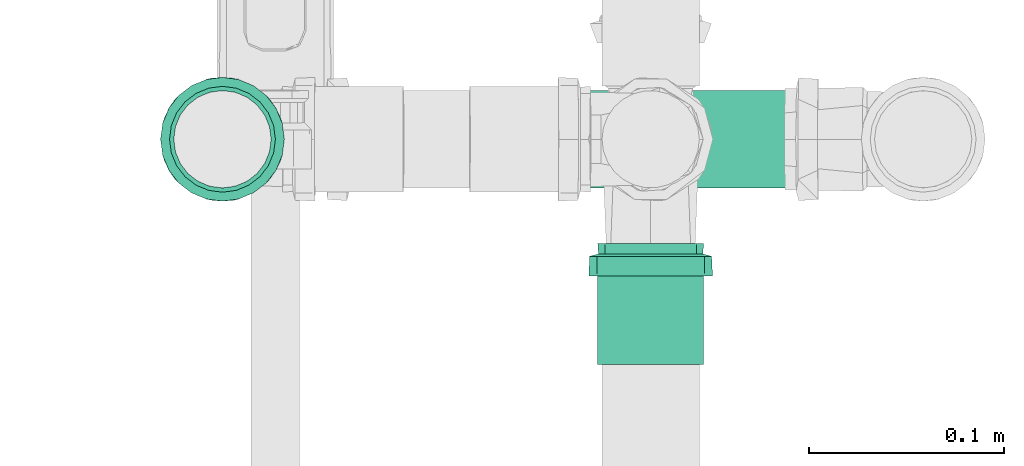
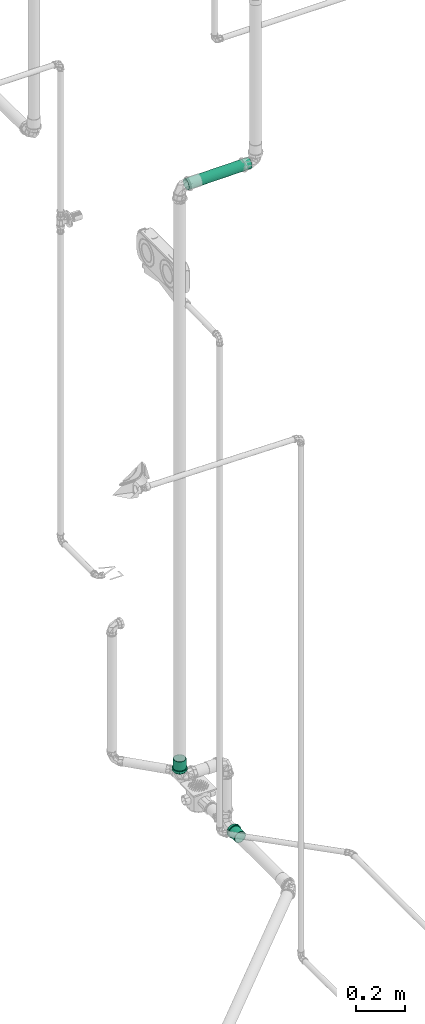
# One storey, part 168 of 589: 2 flow fittings, 1 flow segment.
"""IFC2X3 building model written with IfcOpenShell, lengths in millimetres."""

from ifc_helpers import new_model, entity, si_unit, converted_unit, derived_unit, direction, frame, frame_2d, origin, place, context, subcontext, project, spatial, circle, extrude, faceted_brep, source, transform, mapped, material, type_object, type_shapes, element, save


model = new_model("IFC2X3")

# Units and contexts
model_context = context("Model", 3, precision=0.01, world=origin(), true_north=direction((6.123031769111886e-17, 1.0)))
body_context = subcontext(model_context, "Body", "Model", "MODEL_VIEW")
ifc_project = project(units=[si_unit("LENGTHUNIT", "METRE", prefix="MILLI"), si_unit("AREAUNIT", "SQUARE_METRE"), si_unit("VOLUMEUNIT", "CUBIC_METRE"), converted_unit("PLANEANGLEUNIT", "DEGREE", entity("IfcRatioMeasure", 0.017453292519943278), si_unit("PLANEANGLEUNIT", "RADIAN"), dimensions=[0, 0, 0, 0, 0, 0, 0]), si_unit("MASSUNIT", "GRAM", prefix="KILO"), derived_unit("MASSDENSITYUNIT", [(si_unit("MASSUNIT", "GRAM", prefix="KILO"), 1), (si_unit("LENGTHUNIT", "METRE"), -3)]), derived_unit("IONCONCENTRATIONUNIT", [(si_unit("MASSUNIT", "GRAM", prefix="KILO"), 1), (si_unit("LENGTHUNIT", "METRE"), -3)]), derived_unit("MOMENTOFINERTIAUNIT", [(si_unit("LENGTHUNIT", "METRE"), 4)]), si_unit("TIMEUNIT", "SECOND"), si_unit("FREQUENCYUNIT", "HERTZ"), si_unit("THERMODYNAMICTEMPERATUREUNIT", "DEGREE_CELSIUS"), derived_unit("THERMALTRANSMITTANCEUNIT", [(si_unit("MASSUNIT", "GRAM", prefix="KILO"), 1), (si_unit("THERMODYNAMICTEMPERATUREUNIT", "KELVIN"), -1), (si_unit("TIMEUNIT", "SECOND"), -3)]), derived_unit("THERMALCONDUCTANCEUNIT", [(si_unit("MASSUNIT", "GRAM", prefix="KILO"), 1), (si_unit("THERMODYNAMICTEMPERATUREUNIT", "KELVIN"), -1), (si_unit("TIMEUNIT", "SECOND"), -3), (si_unit("LENGTHUNIT", "METRE"), 1)]), derived_unit("VOLUMETRICFLOWRATEUNIT", [(si_unit("LENGTHUNIT", "METRE"), 3), (si_unit("TIMEUNIT", "SECOND"), -1)]), derived_unit("MASSFLOWRATEUNIT", [(si_unit("MASSUNIT", "GRAM", prefix="KILO"), 1), (si_unit("TIMEUNIT", "SECOND"), -1)]), derived_unit("ROTATIONALFREQUENCYUNIT", [(si_unit("TIMEUNIT", "SECOND"), -1)]), si_unit("ELECTRICCURRENTUNIT", "AMPERE"), si_unit("ELECTRICVOLTAGEUNIT", "VOLT"), si_unit("POWERUNIT", "WATT"), si_unit("FORCEUNIT", "NEWTON", prefix="KILO"), si_unit("ILLUMINANCEUNIT", "LUX"), si_unit("LUMINOUSFLUXUNIT", "LUMEN"), si_unit("LUMINOUSINTENSITYUNIT", "CANDELA"), derived_unit("USERDEFINED", [(si_unit("MASSUNIT", "GRAM", prefix="KILO"), -1), (si_unit("LENGTHUNIT", "METRE"), -2), (si_unit("TIMEUNIT", "SECOND"), 3), (si_unit("LUMINOUSFLUXUNIT", "LUMEN"), 1)]), derived_unit("USERDEFINED", [(si_unit("MASSUNIT", "GRAM", prefix="KILO"), 1), (si_unit("TIMEUNIT", "SECOND"), -3), (si_unit("LENGTHUNIT", "METRE"), 3), (si_unit("ELECTRICCURRENTUNIT", "AMPERE"), -2)]), derived_unit("SOUNDPOWERUNIT", [(si_unit("MASSUNIT", "GRAM", prefix="KILO"), 1), (si_unit("TIMEUNIT", "SECOND"), -3), (si_unit("LENGTHUNIT", "METRE"), 2)]), derived_unit("SOUNDPRESSUREUNIT", [(si_unit("MASSUNIT", "GRAM", prefix="KILO"), 1), (si_unit("LENGTHUNIT", "METRE"), -1), (si_unit("TIMEUNIT", "SECOND"), -2)]), derived_unit("LINEARVELOCITYUNIT", [(si_unit("LENGTHUNIT", "METRE"), 1), (si_unit("TIMEUNIT", "SECOND"), -1)]), si_unit("PRESSUREUNIT", "PASCAL"), derived_unit("USERDEFINED", [(si_unit("MASSUNIT", "GRAM", prefix="KILO"), 1), (si_unit("LENGTHUNIT", "METRE"), -2), (si_unit("TIMEUNIT", "SECOND"), -2)]), derived_unit("LINEARFORCEUNIT", [(si_unit("MASSUNIT", "GRAM", prefix="KILO"), 1), (si_unit("TIMEUNIT", "SECOND"), -2)]), derived_unit("PLANARFORCEUNIT", [(si_unit("MASSUNIT", "GRAM", prefix="KILO"), 1), (si_unit("LENGTHUNIT", "METRE"), -1), (si_unit("TIMEUNIT", "SECOND"), -2)]), derived_unit("SPECIFICHEATCAPACITYUNIT", [(si_unit("THERMODYNAMICTEMPERATUREUNIT", "KELVIN"), -1), (si_unit("LENGTHUNIT", "METRE"), 2), (si_unit("TIMEUNIT", "SECOND"), -2)]), derived_unit("HEATINGVALUEUNIT", [(si_unit("LENGTHUNIT", "METRE"), 2), (si_unit("TIMEUNIT", "SECOND"), -2)]), derived_unit("VAPORPERMEABILITYUNIT", [(si_unit("LENGTHUNIT", "METRE"), -1), (si_unit("TIMEUNIT", "SECOND"), 1)]), derived_unit("DYNAMICVISCOSITYUNIT", [(si_unit("MASSUNIT", "GRAM", prefix="KILO"), 1), (si_unit("TIMEUNIT", "SECOND"), -1), (si_unit("LENGTHUNIT", "METRE"), -1)]), derived_unit("THERMALEXPANSIONCOEFFICIENTUNIT", [(si_unit("THERMODYNAMICTEMPERATUREUNIT", "KELVIN"), -1)]), derived_unit("MODULUSOFELASTICITYUNIT", [(si_unit("MASSUNIT", "GRAM", prefix="KILO"), 1), (si_unit("LENGTHUNIT", "METRE"), -1), (si_unit("TIMEUNIT", "SECOND"), -2)]), derived_unit("ISOTHERMALMOISTURECAPACITYUNIT", [(si_unit("LENGTHUNIT", "METRE"), 3), (si_unit("MASSUNIT", "GRAM", prefix="KILO"), -1)]), derived_unit("MOISTUREDIFFUSIVITYUNIT", [(si_unit("TIMEUNIT", "SECOND"), -1), (si_unit("LENGTHUNIT", "METRE"), 2)])], contexts=[model_context])

# Site, building, storey
site_placement = place(None, origin())
site = spatial("IfcSite", under=ifc_project, at=site_placement, Name="Default", CompositionType="ELEMENT")
building_placement = place(site_placement, origin())
building = spatial("IfcBuilding", under=site, at=building_placement, CompositionType="ELEMENT")
storey_placement = place(building_placement, frame((0.0, 0.0, 100.0)))
storey = spatial("IfcBuildingStorey", under=building, at=storey_placement, Name="TÉRREO", CompositionType="ELEMENT", Elevation=100.0)

# Flow segment
pipe_segment_type = type_object("IfcPipeSegmentType", Name="Tipos de tubos:PVC Esgoto Série Normal", PredefinedType="NOTDEFINED")
flow_segment_placement = place(storey_placement, origin())
element("IfcFlowSegment", 1, at=flow_segment_placement, inside=storey, type_object=pipe_segment_type, Name="Tipos de tubos:PVC Esgoto Série Normal", ObjectType="Tipos de tubos:PVC Esgoto Série Normal", context=body_context, shape_type="SweptSolid", body=[
    extrude(circle(Radius=25.0, at=frame_2d((-1.0828671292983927e-12, 5.414064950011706e-13), x_axis=(1.0, 0.0))), frame((11855.917911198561, -6666.695187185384, 3042.5093975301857), z_axis=(0.9999500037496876, 0.0, 0.009999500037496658), x_axis=(0.0, -1.0, 0.0)), (0.0, 0.0, 1.0), 298.1353996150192),
])

# Flow fittings
ifc_material = material(Name="PVC Série Normal")
pipe_fitting_type = type_object("IfcPipeFittingType", Name="PVC Esgoto_Luva Simples para Conexão_Rodrigo MEP:Standard", PredefinedType="NOTDEFINED", material=ifc_material)
shared_shape = source(origin(), body_context, "Body", "Brep", [
    faceted_brep([(16.599999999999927, 15.900000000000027, -27.53960784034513), (16.599999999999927, 22.485995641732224, -22.485995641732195), (16.599999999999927, 13.599999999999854, -23.555890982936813), (16.599999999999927, 7.039878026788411, -26.273182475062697), (16.599999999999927, 8.2304456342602, -30.71644127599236), (16.599999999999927, 19.233304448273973, -19.233304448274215), (16.599999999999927, 27.539607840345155, -15.899999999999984), (16.599999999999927, 23.55589098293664, -13.600000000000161), (16.599999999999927, 26.273182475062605, -7.03987802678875), (16.599999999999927, 30.716441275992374, -8.230445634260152), (16.599999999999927, 27.2, 0.0), (16.599999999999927, 31.8, 0.0), (16.599999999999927, 26.273182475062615, 7.0398780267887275), (16.599999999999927, 30.71644127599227, 8.23044563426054), (16.599999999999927, 23.555890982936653, 13.60000000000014), (16.599999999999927, 27.539607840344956, 15.900000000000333), (16.599999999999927, 19.233304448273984, 19.2333044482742), (16.599999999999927, 22.485995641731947, 22.48599564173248), (16.599999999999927, 13.599999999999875, 23.555890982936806), (16.599999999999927, 15.899999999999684, 27.53960784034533), (16.599999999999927, 7.039878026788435, 26.27318247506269), (16.599999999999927, 8.230445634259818, 30.716441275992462), (16.599999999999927, 0.0, 27.2), (16.599999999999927, 0.0, 31.8), (16.599999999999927, -7.039878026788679, 26.273182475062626), (16.599999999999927, -8.230445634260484, 30.716441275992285), (16.599999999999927, -13.600000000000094, 23.555890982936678), (16.599999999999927, -15.900000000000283, 27.53960784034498), (16.599999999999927, -19.23330444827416, 19.233304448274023), (16.599999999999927, -22.485995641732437, 22.48599564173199), (16.599999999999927, -23.55589098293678, 13.59999999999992), (16.599999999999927, -27.539607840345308, 15.899999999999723), (16.599999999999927, -30.71644127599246, 8.230445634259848), (16.599999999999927, -26.273182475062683, 7.039878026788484), (16.599999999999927, -31.8, 0.0), (16.599999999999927, -27.2, 0.0), (16.599999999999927, -30.71644127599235, -8.23044563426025), (16.599999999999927, -26.273182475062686, -7.03987802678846), (16.599999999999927, -27.53960784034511, -15.90000000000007), (16.599999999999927, -23.55589098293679, -13.599999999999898), (16.599999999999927, -22.485995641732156, -22.485995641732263), (16.599999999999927, -19.233304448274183, -19.233304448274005), (16.599999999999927, -15.899999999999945, -27.53960784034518), (16.599999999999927, -13.600000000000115, -23.555890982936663), (16.599999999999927, -8.230445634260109, -30.716441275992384), (16.599999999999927, -7.039878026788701, -26.273182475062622), (16.599999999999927, 0.0, -31.8), (16.599999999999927, 0.0, -27.2), (6.500000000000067, -10.708108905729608, 29.429219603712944), (6.500000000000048, -24.359073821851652, 20.44200387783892), (6.500000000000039, -27.120498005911, 15.6595386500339), (6.50000000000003, -29.881922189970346, 10.877073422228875), (6.500000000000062, -15.89769721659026, 27.540937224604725), (6.500000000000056, -20.128385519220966, 23.991470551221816), (6.50000000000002, -30.840961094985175, 5.438536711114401), (6.5000000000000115, -31.8, 0.0), (6.50000000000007, -5.518520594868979, 31.317501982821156), (6.500000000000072, 5.526376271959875, 31.316116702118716), (6.50000000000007, 0.00392783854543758, 31.316809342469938), (6.500000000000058, 20.134403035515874, 23.986420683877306), (6.500000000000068, 10.715490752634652, 29.42653259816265), (6.500000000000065, 15.904605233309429, 27.536948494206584), (6.500000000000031, 29.8846497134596, 10.869577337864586), (6.500000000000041, 27.12442527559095, 15.652735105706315), (6.5000000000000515, 24.364200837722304, 20.435892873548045), (6.5000000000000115, 31.8, 0.0), (6.499999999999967, 24.364200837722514, -20.435892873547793), (6.499999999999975, 27.12442527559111, -15.652735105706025), (6.499999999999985, 29.884649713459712, -10.869577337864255), (6.4999999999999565, 15.904605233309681, -27.53694849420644), (6.499999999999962, 20.134403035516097, -23.986420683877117), (6.499999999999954, 10.715490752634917, -29.42653259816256), (6.499999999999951, 5.526376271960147, -31.31611670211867), (6.499999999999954, -5.518520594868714, -31.317501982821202), (6.499999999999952, 0.003927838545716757, -31.316809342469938), (6.499999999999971, -20.128385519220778, -23.99147055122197), (6.499999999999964, -15.897697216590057, -27.54093722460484), (6.499999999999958, -10.70810890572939, -29.42921960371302), (6.499999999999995, -29.881922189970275, -10.877073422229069), (6.499999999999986, -27.12049800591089, -15.659538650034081), (6.499999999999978, -24.359073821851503, -20.442003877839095), (6.500000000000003, -30.840961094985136, -5.438536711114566), (6.499999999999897, -30.696173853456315, -6.259599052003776), (62.0, 13.600000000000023, -23.55589098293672), (62.0, 19.233304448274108, -19.23330444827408), (62.0, 12.499999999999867, -21.650635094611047), (62.0, 6.470476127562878, -24.14814565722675), (62.0, 7.039878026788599, -26.273182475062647), (62.0, 17.677669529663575, -17.677669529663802), (62.0, 23.55589098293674, -13.599999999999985), (62.0, 21.65063509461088, -12.50000000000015), (62.0, 24.148145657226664, -6.470476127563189), (62.0, 26.27318247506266, -7.039878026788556), (62.0, 25.0, 0.0), (62.0, 27.2, 0.0), (62.0, 24.148145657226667, 6.4704761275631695), (62.0, 26.273182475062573, 7.03987802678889), (62.0, 21.650635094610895, 12.500000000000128), (62.0, 23.555890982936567, 13.600000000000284), (62.0, 17.67766952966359, 17.67766952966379), (62.0, 19.233304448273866, 19.233304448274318), (62.0, 12.499999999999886, 21.650635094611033), (62.0, 13.59999999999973, 23.55589098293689), (62.0, 6.4704761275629, 24.14814565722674), (62.0, 7.039878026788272, 26.273182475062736), (62.0, 0.0, 25.0), (62.0, 0.0, 27.2), (62.0, -6.470476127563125, 24.148145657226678), (62.0, -7.039878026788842, 26.273182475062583), (62.0, -12.500000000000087, 21.650635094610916), (62.0, -13.600000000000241, 23.555890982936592), (62.0, -17.677669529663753, 17.677669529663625), (62.0, -19.233304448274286, 19.2333044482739), (62.0, -21.65063509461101, 12.499999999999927), (62.0, -23.555890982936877, 13.599999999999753), (62.0, -26.27318247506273, 7.039878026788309), (62.0, -24.14814565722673, 6.470476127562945), (62.0, -27.2, 0.0), (62.0, -25.0, 0.0), (62.0, -26.27318247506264, -7.0398780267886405), (62.0, -24.148145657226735, -6.470476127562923), (62.0, -23.5558909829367, -13.600000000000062), (62.0, -21.650635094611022, -12.499999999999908), (62.0, -19.233304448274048, -19.233304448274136), (62.0, -17.67766952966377, -17.677669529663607), (62.0, -13.599999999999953, -23.555890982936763), (62.0, -12.500000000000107, -21.650635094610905), (62.0, -7.039878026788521, -26.27318247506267), (62.0, -6.470476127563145, -24.148145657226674), (62.0, 0.0, -27.2), (62.0, 0.0, -25.0), (0.0, 12.499999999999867, -21.650635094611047), (0.0, 19.233304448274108, -19.23330444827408), (0.0, 13.600000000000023, -23.55589098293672), (0.0, 6.470476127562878, -24.14814565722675), (0.0, 17.677669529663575, -17.677669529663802), (0.0, 23.55589098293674, -13.599999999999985), (0.0, 21.65063509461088, -12.50000000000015), (0.0, 24.148145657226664, -6.470476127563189), (0.0, 26.27318247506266, -7.039878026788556), (0.0, 25.0, 0.0), (0.0, 27.2, 0.0), (0.0, 24.148145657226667, 6.4704761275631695), (0.0, 26.273182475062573, 7.03987802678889), (0.0, 21.650635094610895, 12.500000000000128), (0.0, 23.555890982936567, 13.600000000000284), (0.0, 17.67766952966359, 17.67766952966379), (0.0, 19.233304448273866, 19.233304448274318), (0.0, 12.499999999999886, 21.650635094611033), (0.0, 13.59999999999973, 23.55589098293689), (0.0, 6.4704761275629, 24.14814565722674), (0.0, 7.039878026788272, 26.273182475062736), (0.0, 0.0, 25.0), (0.0, 0.0, 27.2), (0.0, -6.470476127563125, 24.148145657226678), (0.0, -7.039878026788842, 26.273182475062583), (0.0, -12.500000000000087, 21.650635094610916), (0.0, -13.600000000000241, 23.555890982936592), (0.0, -17.677669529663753, 17.677669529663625), (0.0, -19.233304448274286, 19.2333044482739), (0.0, -21.65063509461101, 12.499999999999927), (0.0, -23.555890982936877, 13.599999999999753), (0.0, -26.27318247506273, 7.039878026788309), (0.0, -24.14814565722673, 6.470476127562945), (0.0, -27.2, 0.0), (0.0, -25.0, 0.0), (0.0, -26.27318247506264, -7.0398780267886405), (0.0, -24.148145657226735, -6.470476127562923), (0.0, -23.5558909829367, -13.600000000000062), (0.0, -21.650635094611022, -12.499999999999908), (0.0, -19.233304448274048, -19.233304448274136), (0.0, -17.67766952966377, -17.677669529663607), (0.0, -13.599999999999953, -23.555890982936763), (0.0, -12.500000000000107, -21.650635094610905), (0.0, -7.039878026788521, -26.27318247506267), (0.0, -6.470476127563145, -24.148145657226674), (0.0, 0.0, -27.2), (0.0, 0.0, -25.0), (0.0, 7.039878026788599, -26.273182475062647), (5.300000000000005, -26.37968999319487, 4.651830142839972), (5.299999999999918, -26.25584678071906, 5.354122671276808), (5.300000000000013, -25.559379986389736, 9.303660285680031), (5.300000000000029, -20.835434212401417, 17.48498444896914), (5.300000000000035, -17.216732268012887, 20.521006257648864), (5.300000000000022, -23.19740709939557, 13.394322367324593), (5.3000000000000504, -4.720244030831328, 26.787297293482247), (5.300000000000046, -9.15913717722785, 25.172162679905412), (5.299999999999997, -27.2, 0.0), (5.300000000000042, -13.598030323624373, 23.557028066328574), (5.300000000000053, 9.165451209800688, 25.169864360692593), (5.300000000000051, 13.603939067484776, 23.55361632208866), (5.300000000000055, 4.7269633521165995, 26.786112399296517), (5.300000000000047, 17.221879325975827, 20.516686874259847), (5.300000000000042, 20.839819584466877, 17.479757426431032), (5.3000000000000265, 25.56171296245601, 9.297248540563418), (5.299999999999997, 27.2, 0.0), (5.3000000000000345, 23.20076627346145, 13.388502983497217), (5.300000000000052, 0.003359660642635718, 26.786704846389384), (5.299999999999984, 25.56171296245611, -9.29724854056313), (5.299999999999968, 20.839819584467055, -17.47975742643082), (5.2999999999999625, 17.22187932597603, -20.516686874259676), (5.299999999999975, 23.200766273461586, -13.388502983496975), (5.299999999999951, 4.726963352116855, -26.78611239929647), (5.2999999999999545, 9.165451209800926, -25.169864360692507), (5.299999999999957, 13.603939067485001, -23.553616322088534), (5.29999999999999, -26.379689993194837, -4.651830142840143), (5.299999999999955, -9.159137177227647, -25.17216267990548), (5.299999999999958, -13.5980303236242, -23.55702806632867), (5.299999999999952, -4.720244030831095, -26.787297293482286), (5.299999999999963, -17.216732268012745, -20.52100625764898), (5.299999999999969, -20.83543421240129, -17.484984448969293), (5.299999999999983, -25.559379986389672, -9.303660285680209), (5.299999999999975, -23.197407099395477, -13.394322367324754), (5.299999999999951, 0.003359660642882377, -26.78670484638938), (39.0, -25.0, 0.0), (39.0, 25.0, 0.0)], [[[0, 1, 2]], [[0, 2, 3]], [[3, 4, 0]], [[2, 1, 5]], [[6, 5, 1]], [[7, 5, 6]], [[8, 7, 6]], [[8, 6, 9]], [[8, 9, 10]], [[10, 9, 11]], [[12, 10, 11]], [[12, 11, 13]], [[14, 12, 13]], [[14, 13, 15]], [[16, 14, 15]], [[15, 17, 16]], [[17, 18, 16]], [[17, 19, 18]], [[18, 19, 20]], [[21, 20, 19]], [[20, 21, 22]], [[22, 21, 23]], [[22, 23, 24]], [[24, 23, 25]], [[24, 25, 26]], [[27, 26, 25]], [[27, 28, 26]], [[28, 27, 29]], [[30, 28, 29]], [[31, 30, 29]], [[32, 30, 31]], [[33, 30, 32]], [[33, 32, 34]], [[35, 33, 34]], [[36, 35, 34]], [[36, 37, 35]], [[37, 36, 38]], [[39, 37, 38]], [[39, 38, 40]], [[39, 40, 41]], [[40, 42, 41]], [[41, 42, 43]], [[43, 42, 44]], [[44, 45, 43]], [[46, 45, 44]], [[4, 47, 46]], [[46, 47, 45]], [[4, 3, 47]], [[48, 27, 25]], [[31, 29, 49]], [[31, 49, 50, 51]], [[52, 53, 27]], [[32, 51, 54]], [[54, 55, 34]], [[54, 34, 32]], [[25, 56, 48]], [[49, 29, 53]], [[23, 57, 58, 56]], [[59, 19, 17]], [[27, 53, 29]], [[48, 52, 27]], [[31, 51, 32]], [[57, 23, 21]], [[60, 19, 61]], [[15, 62, 63, 64]], [[19, 60, 21]], [[15, 13, 62]], [[17, 64, 59]], [[57, 21, 60]], [[23, 56, 25]], [[15, 64, 17]], [[13, 65, 62]], [[13, 11, 65]], [[59, 61, 19]], [[65, 11, 9]], [[6, 1, 66]], [[6, 66, 67, 68]], [[69, 70, 0]], [[68, 65, 9]], [[71, 69, 0]], [[71, 0, 4]], [[4, 72, 71]], [[66, 1, 70]], [[46, 73, 74, 72]], [[75, 76, 42]], [[0, 70, 1]], [[75, 42, 40]], [[6, 68, 9]], [[73, 46, 44]], [[77, 42, 76]], [[38, 78, 79, 80]], [[42, 77, 44]], [[38, 36, 78]], [[40, 80, 75]], [[73, 44, 77]], [[46, 72, 4]], [[38, 80, 40]], [[36, 81, 82, 78]], [[55, 81, 34]], [[34, 81, 36]], [[83, 84, 85]], [[83, 85, 86]], [[86, 87, 83]], [[85, 84, 88]], [[89, 88, 84]], [[88, 89, 90]], [[90, 89, 91]], [[92, 91, 89]], [[92, 93, 91]], [[93, 92, 94]], [[95, 93, 94]], [[94, 96, 95]], [[95, 96, 97]], [[98, 97, 96]], [[97, 98, 99]], [[99, 98, 100]], [[101, 99, 100]], [[100, 102, 101]], [[101, 102, 103]], [[104, 103, 102]], [[103, 104, 105]], [[105, 104, 106]], [[105, 106, 107]], [[107, 106, 108]], [[107, 108, 109]], [[110, 109, 108]], [[110, 111, 109]], [[111, 110, 112]], [[112, 113, 111]], [[114, 113, 112]], [[113, 114, 115]], [[115, 116, 113]], [[117, 116, 115]], [[117, 118, 116]], [[119, 118, 117]], [[119, 120, 118]], [[120, 119, 121]], [[121, 122, 120]], [[122, 121, 123]], [[122, 123, 124]], [[123, 125, 124]], [[124, 125, 126]], [[126, 125, 127]], [[127, 128, 126]], [[129, 128, 127]], [[87, 130, 129]], [[129, 130, 128]], [[87, 86, 130]], [[131, 132, 133]], [[134, 131, 133]], [[135, 132, 131]], [[132, 135, 136]], [[137, 136, 135]], [[138, 136, 137]], [[136, 138, 139]], [[138, 140, 139]], [[141, 139, 140]], [[141, 140, 142]], [[142, 143, 141]], [[144, 143, 142]], [[143, 144, 145]], [[146, 145, 144]], [[147, 145, 146]], [[147, 146, 148]], [[148, 149, 147]], [[150, 149, 148]], [[149, 150, 151]], [[152, 151, 150]], [[153, 151, 152]], [[154, 153, 152]], [[155, 153, 154]], [[156, 155, 154]], [[155, 156, 157]], [[156, 158, 157]], [[159, 157, 158]], [[158, 160, 159]], [[159, 160, 161]], [[162, 161, 160]], [[160, 163, 162]], [[162, 163, 164]], [[163, 165, 164]], [[164, 165, 166]], [[165, 167, 166]], [[168, 166, 167]], [[167, 169, 168]], [[170, 168, 169]], [[171, 170, 169]], [[171, 172, 170]], [[173, 172, 171]], [[174, 172, 173]], [[173, 175, 174]], [[174, 175, 176]], [[175, 177, 176]], [[177, 134, 178]], [[176, 177, 178]], [[133, 178, 134]], [[162, 179, 180, 181]], [[159, 182, 183]], [[182, 161, 181, 184]], [[185, 155, 186]], [[161, 162, 181]], [[187, 179, 164]], [[183, 188, 157]], [[183, 157, 159]], [[161, 182, 159]], [[189, 190, 149]], [[189, 149, 151]], [[157, 188, 186]], [[157, 186, 155]], [[153, 155, 185]], [[164, 179, 162]], [[151, 191, 189]], [[147, 192, 193]], [[143, 194, 195]], [[194, 145, 193, 196]], [[143, 195, 141]], [[10, 12, 96, 94]], [[149, 192, 147]], [[153, 185, 197, 191]], [[153, 191, 151]], [[145, 147, 193]], [[190, 192, 149]], [[145, 194, 143]], [[139, 195, 198]], [[132, 199, 200]], [[199, 136, 198, 201]], [[202, 178, 203]], [[136, 139, 198]], [[139, 141, 195]], [[92, 8, 10, 94]], [[133, 203, 178]], [[200, 204, 133]], [[136, 199, 132]], [[205, 164, 166]], [[206, 207, 172]], [[133, 204, 203]], [[206, 172, 174]], [[176, 178, 202]], [[200, 133, 132]], [[174, 208, 206]], [[170, 209, 210]], [[166, 211, 205]], [[211, 168, 210, 212]], [[168, 211, 166]], [[172, 209, 170]], [[176, 202, 213, 208]], [[176, 208, 174]], [[168, 170, 210]], [[207, 209, 172]], [[205, 187, 164]], [[116, 118, 214, 165, 163]], [[156, 109, 111, 158]], [[111, 113, 160, 158]], [[113, 116, 163, 160]], [[107, 109, 156, 154]], [[154, 152, 105, 107]], [[103, 105, 152, 150]], [[103, 150, 148, 101]], [[142, 95, 97, 144]], [[97, 99, 146, 144]], [[99, 101, 148, 146]], [[93, 95, 142, 140, 215]], [[215, 140, 138, 91, 93]], [[135, 131, 85, 88]], [[90, 91, 138, 137]], [[90, 137, 135, 88]], [[86, 85, 131, 134]], [[134, 177, 130, 86]], [[128, 130, 177, 175]], [[128, 175, 173, 126]], [[167, 120, 122, 169]], [[122, 124, 171, 169]], [[124, 126, 173, 171]], [[118, 120, 167, 165, 214]], [[211, 78, 82, 81, 55, 187, 205]], [[79, 78, 211, 212, 210, 80]], [[75, 80, 210, 209, 207, 76]], [[207, 206, 208, 73, 77, 76]], [[213, 202, 72, 74, 73, 208]], [[203, 204, 69, 71, 72, 202]], [[198, 195, 65, 68]], [[199, 201, 198, 68, 67, 66]], [[204, 200, 199, 66, 70, 69]], [[195, 194, 62, 65]], [[197, 185, 56, 58, 57, 191]], [[63, 62, 194, 196, 193, 64]], [[57, 60, 61, 190, 189, 191]], [[193, 192, 190, 61, 59, 64]], [[48, 56, 185, 186, 188, 52]], [[187, 55, 54, 51, 181, 180, 179]], [[182, 184, 181, 51, 50, 49]], [[188, 183, 182, 49, 53, 52]], [[30, 33, 115, 114]], [[117, 115, 33, 35]], [[26, 28, 112, 110]], [[114, 112, 28, 30]], [[24, 26, 110, 108]], [[108, 106, 22, 24]], [[18, 20, 104, 102]], [[100, 16, 18, 102]], [[12, 14, 98, 96]], [[100, 98, 14, 16]], [[104, 20, 22, 106]], [[89, 7, 8, 92]], [[83, 87, 3, 2]], [[7, 89, 84, 5]], [[83, 2, 5, 84]], [[87, 129, 47, 3]], [[43, 45, 127, 125]], [[123, 41, 43, 125]], [[37, 39, 121, 119]], [[123, 121, 39, 41]], [[35, 37, 119, 117]], [[127, 45, 47, 129]]]),
])
type_shapes(pipe_fitting_type, [shared_shape])
for number, where, z_axis, x_axis, name in (
    (2, (11824.978158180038, -6666.695187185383, 113.14129996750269), (0.0, 1.0, 0.0), (0.0, 0.0, 1.0), "PVC Esgoto_Luva Simples para Conexão_Rodrigo MEP:Standard"),
    (3, (12044.978158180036, -6720.295187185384, -227.7106242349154), (-1.0, 0.0, 0.0), (0.0, -1.0, 0.0), "PVC Esgoto_Luva Simples para Conexão_Rodrigo MEP:Standard"),
):
    element("IfcFlowFitting", number, at=place(storey_placement, frame(where, z_axis=z_axis, x_axis=x_axis)), inside=storey, type_object=pipe_fitting_type, material=ifc_material, Name=name, ObjectType="PVC Esgoto_Luva Simples para Conexão_Rodrigo MEP:Standard", context=body_context, shape_type="MappedRepresentation", body=[
        mapped(shared_shape, transform((0.0, 0.0, 0.0), scale=1.0)),
    ])

save(model, "model.ifc")
